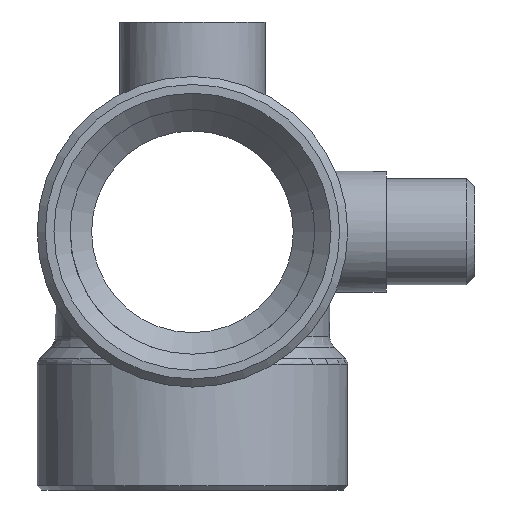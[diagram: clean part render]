
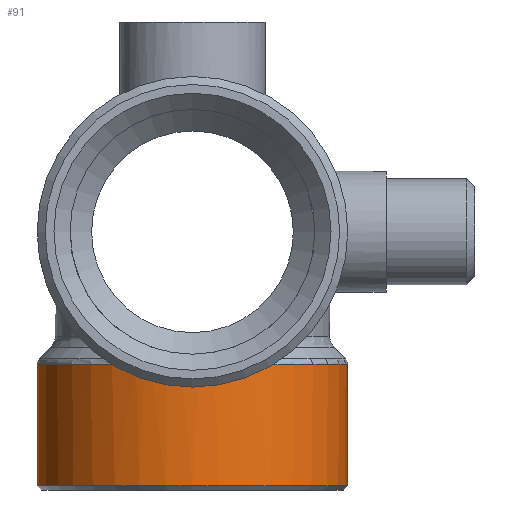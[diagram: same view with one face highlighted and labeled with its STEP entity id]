
A CAD part, front view. The second image highlights one B-rep face of the part: STEP entity #91.
In plain terms, the highlighted cylindrical face has radius 19.25 mm (diameter 38.5 mm), a full revolution.
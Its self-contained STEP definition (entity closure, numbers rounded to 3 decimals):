
#91=ADVANCED_FACE('',(#3123,#3125),#3127,.T.);
#3123=FACE_BOUND('',#3124,.T.);
#3124=EDGE_LOOP('',(#3640,#3641,#3642,#3643,#3644));
#3125=FACE_OUTER_BOUND('',#3126,.T.);
#3126=EDGE_LOOP('',(#3645));
#3127=CYLINDRICAL_SURFACE('',#3128,19.25);
#3128=AXIS2_PLACEMENT_3D('',#3129,#3130,#3131);
#3129=CARTESIAN_POINT('',(0.,0.,-16.));
#3130=DIRECTION('',(0.,0.,-1.));
#3131=DIRECTION('',(0.,1.,0.));
#3640=ORIENTED_EDGE('',*,*,#3859,.F.);
#3641=ORIENTED_EDGE('',*,*,#3823,.T.);
#3642=ORIENTED_EDGE('',*,*,#3858,.F.);
#3643=ORIENTED_EDGE('',*,*,#3845,.T.);
#3644=ORIENTED_EDGE('',*,*,#3844,.T.);
#3645=ORIENTED_EDGE('',*,*,#3860,.F.);
#3823=EDGE_CURVE('',#4050,#4047,#4051,.T.);
#3844=EDGE_CURVE('',#4082,#4079,#4083,.F.);
#3845=EDGE_CURVE('',#4084,#4082,#4085,.F.);
#3858=EDGE_CURVE('',#4084,#4047,#4104,.T.);
#3859=EDGE_CURVE('',#4050,#4079,#4105,.T.);
#3860=EDGE_CURVE('',#4106,#4106,#4107,.T.);
#4047=VERTEX_POINT('',#5087);
#4050=VERTEX_POINT('',#5128);
#4051=B_SPLINE_CURVE_WITH_KNOTS('',3,
(#5129,#5130,#5131,#5132,#5133,#5134,#5135,#5136,#5137,#5138,#5139,#5140,#5141,#5142,
#5143,#5144,#5145,#5146,#5147),
.UNSPECIFIED.,.F.,.F.,
(4,1,1,1,1,1,1,1,1,1,1,1,1,1,1,1,4),
(0.,0.088,0.163,0.23,0.295,0.359,
0.414,0.465,0.515,0.57,0.626,
0.682,0.735,0.789,0.853,0.923,
1.),
.UNSPECIFIED.);
#4079=VERTEX_POINT('',#5486);
#4082=VERTEX_POINT('',#5527);
#4083=B_SPLINE_CURVE_WITH_KNOTS('',3,
(#5528,#5529,#5530,#5531,#5532,#5533,#5534,#5535,#5536,#5537,#5538,#5539),
.UNSPECIFIED.,.F.,.F.,
(4,1,1,1,1,1,1,1,1,4),
(0.,0.173,0.334,0.469,0.578,0.673,
0.769,0.872,0.949,1.),
.UNSPECIFIED.);
#4084=VERTEX_POINT('',#5540);
#4085=B_SPLINE_CURVE_WITH_KNOTS('',3,
(#5541,#5542,#5543,#5544,#5545,#5546,#5547,#5548,#5549,#5550,#5551,#5552,#5553,#5554,
#5555,#5556,#5557),
.UNSPECIFIED.,.F.,.F.,
(4,1,1,1,1,1,1,1,1,1,1,1,1,1,4),
(0.,0.12,0.226,0.321,0.408,0.484,
0.544,0.604,0.668,0.735,0.798,
0.855,0.916,0.964,1.),
.UNSPECIFIED.);
#4104=CIRCLE('',#5783,19.25);
#4105=CIRCLE('',#5787,19.25);
#4106=VERTEX_POINT('',#5791);
#4107=CIRCLE('',#5792,19.25);
#5087=CARTESIAN_POINT('',(-7.023,-17.923,-16.414));
#5128=CARTESIAN_POINT('',(7.023,-17.923,-16.414));
#5129=CARTESIAN_POINT('',(7.023,-17.923,-16.414));
#5130=CARTESIAN_POINT('',(6.649,-18.07,-16.581));
#5131=CARTESIAN_POINT('',(5.95,-18.319,-16.895));
#5132=CARTESIAN_POINT('',(4.914,-18.621,-17.252));
#5133=CARTESIAN_POINT('',(3.95,-18.848,-17.524));
#5134=CARTESIAN_POINT('',(3.017,-19.02,-17.727));
#5135=CARTESIAN_POINT('',(2.126,-19.139,-17.868));
#5136=CARTESIAN_POINT('',(1.298,-19.212,-17.954));
#5137=CARTESIAN_POINT('',(0.525,-19.248,-17.997));
#5138=CARTESIAN_POINT('',(-0.246,-19.254,-18.004));
#5139=CARTESIAN_POINT('',(-1.042,-19.228,-17.973));
#5140=CARTESIAN_POINT('',(-1.858,-19.166,-17.901));
#5141=CARTESIAN_POINT('',(-2.663,-19.07,-17.787));
#5142=CARTESIAN_POINT('',(-3.447,-18.944,-17.637));
#5143=CARTESIAN_POINT('',(-4.257,-18.78,-17.442));
#5144=CARTESIAN_POINT('',(-5.125,-18.563,-17.183));
#5145=CARTESIAN_POINT('',(-6.069,-18.278,-16.843));
#5146=CARTESIAN_POINT('',(-6.699,-18.05,-16.563));
#5147=CARTESIAN_POINT('',(-7.023,-17.923,-16.414));
#5486=CARTESIAN_POINT('',(7.023,17.923,-16.414));
#5527=CARTESIAN_POINT('',(0.,19.25,-18.));
#5528=CARTESIAN_POINT('',(7.023,17.923,-16.414));
#5529=CARTESIAN_POINT('',(6.655,18.067,-16.581));
#5530=CARTESIAN_POINT('',(5.938,18.324,-16.9));
#5531=CARTESIAN_POINT('',(4.881,18.631,-17.264));
#5532=CARTESIAN_POINT('',(3.94,18.849,-17.525));
#5533=CARTESIAN_POINT('',(3.132,18.998,-17.702));
#5534=CARTESIAN_POINT('',(2.408,19.103,-17.826));
#5535=CARTESIAN_POINT('',(1.691,19.18,-17.917));
#5536=CARTESIAN_POINT('',(1.015,19.227,-17.973));
#5537=CARTESIAN_POINT('',(0.444,19.247,-17.996));
#5538=CARTESIAN_POINT('',(0.127,19.25,-18.));
#5539=CARTESIAN_POINT('',(0.,19.25,-18.));
#5540=CARTESIAN_POINT('',(-7.023,17.923,-16.414));
#5541=CARTESIAN_POINT('',(0.,19.25,-18.));
#5542=CARTESIAN_POINT('',(-0.297,19.25,-18.));
#5543=CARTESIAN_POINT('',(-0.855,19.237,-17.985));
#5544=CARTESIAN_POINT('',(-1.645,19.184,-17.922));
#5545=CARTESIAN_POINT('',(-2.347,19.11,-17.835));
#5546=CARTESIAN_POINT('',(-2.969,19.023,-17.731));
#5547=CARTESIAN_POINT('',(-3.503,18.931,-17.621));
#5548=CARTESIAN_POINT('',(-3.967,18.839,-17.512));
#5549=CARTESIAN_POINT('',(-4.398,18.743,-17.397));
#5550=CARTESIAN_POINT('',(-4.838,18.634,-17.268));
#5551=CARTESIAN_POINT('',(-5.279,18.514,-17.124));
#5552=CARTESIAN_POINT('',(-5.697,18.389,-16.975));
#5553=CARTESIAN_POINT('',(-6.096,18.261,-16.821));
#5554=CARTESIAN_POINT('',(-6.457,18.136,-16.67));
#5555=CARTESIAN_POINT('',(-6.768,18.022,-16.534));
#5556=CARTESIAN_POINT('',(-6.946,17.953,-16.449));
#5557=CARTESIAN_POINT('',(-7.023,17.923,-16.414));
#5783=AXIS2_PLACEMENT_3D('',#5784,#5785,#5786);
#5784=CARTESIAN_POINT('',(0.,0.,-16.414));
#5785=DIRECTION('',(0.,0.,1.));
#5786=DIRECTION('',(-0.365,0.931,0.));
#5787=AXIS2_PLACEMENT_3D('',#5788,#5789,#5790);
#5788=CARTESIAN_POINT('',(0.,0.,-16.414));
#5789=DIRECTION('',(0.,0.,1.));
#5790=DIRECTION('',(0.365,-0.931,0.));
#5791=CARTESIAN_POINT('',(0.,19.25,-31.5));
#5792=AXIS2_PLACEMENT_3D('',#5793,#5794,#5795);
#5793=CARTESIAN_POINT('',(0.,0.,-31.5));
#5794=DIRECTION('',(0.,0.,-1.));
#5795=DIRECTION('',(0.,1.,0.));
